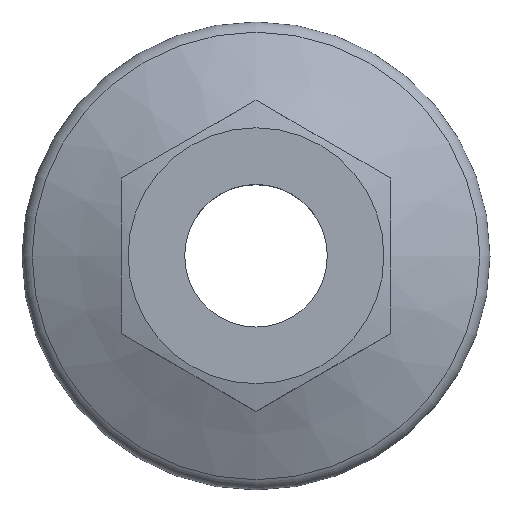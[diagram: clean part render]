
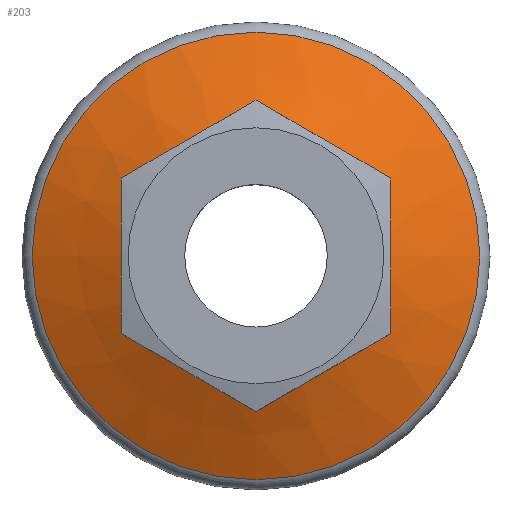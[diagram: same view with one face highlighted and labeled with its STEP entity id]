
A CAD part, top view. The second image highlights one B-rep face of the part: STEP entity #203.
In plain terms, the highlighted conical face has half-angle 65 degrees and reference radius 4.573 mm.
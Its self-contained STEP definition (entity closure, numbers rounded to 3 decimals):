
#31=FACE_OUTER_BOUND('',#43,.T.);
#43=EDGE_LOOP('',(#143,#144,#145,#146,#147,#148,#149,#150,#151,#152));
#57=(
BOUNDED_CURVE()
B_SPLINE_CURVE(2,(#312,#313,#314),.UNSPECIFIED.,.F.,.F.)
B_SPLINE_CURVE_WITH_KNOTS((3,3),(0.252,0.838),
 .UNSPECIFIED.)
CURVE()
GEOMETRIC_REPRESENTATION_ITEM()
RATIONAL_B_SPLINE_CURVE((1.235,1.426,1.235))
REPRESENTATION_ITEM('')
);
#58=(
BOUNDED_CURVE()
B_SPLINE_CURVE(2,(#316,#317,#318),.UNSPECIFIED.,.F.,.F.)
B_SPLINE_CURVE_WITH_KNOTS((3,3),(0.252,0.838),
 .UNSPECIFIED.)
CURVE()
GEOMETRIC_REPRESENTATION_ITEM()
RATIONAL_B_SPLINE_CURVE((1.235,1.426,1.235))
REPRESENTATION_ITEM('')
);
#59=(
BOUNDED_CURVE()
B_SPLINE_CURVE(2,(#320,#321,#322),.UNSPECIFIED.,.F.,.F.)
B_SPLINE_CURVE_WITH_KNOTS((3,3),(0.252,0.838),
 .UNSPECIFIED.)
CURVE()
GEOMETRIC_REPRESENTATION_ITEM()
RATIONAL_B_SPLINE_CURVE((1.235,1.426,1.235))
REPRESENTATION_ITEM('')
);
#60=(
BOUNDED_CURVE()
B_SPLINE_CURVE(2,(#324,#325,#326),.UNSPECIFIED.,.F.,.F.)
B_SPLINE_CURVE_WITH_KNOTS((3,3),(0.252,0.838),
 .UNSPECIFIED.)
CURVE()
GEOMETRIC_REPRESENTATION_ITEM()
RATIONAL_B_SPLINE_CURVE((1.235,1.426,1.235))
REPRESENTATION_ITEM('')
);
#61=(
BOUNDED_CURVE()
B_SPLINE_CURVE(2,(#328,#329,#330),.UNSPECIFIED.,.F.,.F.)
B_SPLINE_CURVE_WITH_KNOTS((3,3),(0.252,0.838),
 .UNSPECIFIED.)
CURVE()
GEOMETRIC_REPRESENTATION_ITEM()
RATIONAL_B_SPLINE_CURVE((1.235,1.426,1.235))
REPRESENTATION_ITEM('')
);
#62=(
BOUNDED_CURVE()
B_SPLINE_CURVE(2,(#331,#332,#333),.UNSPECIFIED.,.F.,.F.)
B_SPLINE_CURVE_WITH_KNOTS((3,3),(0.252,0.838),
 .UNSPECIFIED.)
CURVE()
GEOMETRIC_REPRESENTATION_ITEM()
RATIONAL_B_SPLINE_CURVE((1.235,1.426,1.235))
REPRESENTATION_ITEM('')
);
#70=LINE('',#310,#79);
#79=VECTOR('',#258,4.573);
#88=CIRCLE('',#231,6.646);
#89=CIRCLE('',#232,6.646);
#95=VERTEX_POINT('',#306);
#96=VERTEX_POINT('',#307);
#97=VERTEX_POINT('',#309);
#98=VERTEX_POINT('',#311);
#99=VERTEX_POINT('',#315);
#100=VERTEX_POINT('',#319);
#101=VERTEX_POINT('',#323);
#102=VERTEX_POINT('',#327);
#114=EDGE_CURVE('',#95,#96,#88,.T.);
#115=EDGE_CURVE('',#95,#97,#70,.T.);
#116=EDGE_CURVE('',#98,#97,#57,.T.);
#117=EDGE_CURVE('',#99,#98,#58,.T.);
#118=EDGE_CURVE('',#100,#99,#59,.T.);
#119=EDGE_CURVE('',#101,#100,#60,.T.);
#120=EDGE_CURVE('',#102,#101,#61,.T.);
#121=EDGE_CURVE('',#97,#102,#62,.T.);
#122=EDGE_CURVE('',#96,#95,#89,.T.);
#143=ORIENTED_EDGE('',*,*,#114,.F.);
#144=ORIENTED_EDGE('',*,*,#115,.T.);
#145=ORIENTED_EDGE('',*,*,#116,.F.);
#146=ORIENTED_EDGE('',*,*,#117,.F.);
#147=ORIENTED_EDGE('',*,*,#118,.F.);
#148=ORIENTED_EDGE('',*,*,#119,.F.);
#149=ORIENTED_EDGE('',*,*,#120,.F.);
#150=ORIENTED_EDGE('',*,*,#121,.F.);
#151=ORIENTED_EDGE('',*,*,#115,.F.);
#152=ORIENTED_EDGE('',*,*,#122,.F.);
#201=CONICAL_SURFACE('',#230,4.573,1.134);
#203=ADVANCED_FACE('',(#31),#201,.T.);
#230=AXIS2_PLACEMENT_3D('',#305,#254,#255);
#231=AXIS2_PLACEMENT_3D('',#308,#256,#257);
#232=AXIS2_PLACEMENT_3D('',#334,#259,#260);
#254=DIRECTION('center_axis',(0.,0.,-1.));
#255=DIRECTION('ref_axis',(0.,1.,0.));
#256=DIRECTION('center_axis',(0.,0.,-1.));
#257=DIRECTION('ref_axis',(1.,0.,0.));
#258=DIRECTION('',(0.,0.906,0.423));
#259=DIRECTION('center_axis',(0.,0.,-1.));
#260=DIRECTION('ref_axis',(1.,0.,0.));
#305=CARTESIAN_POINT('Origin',(0.,0.,1.967));
#306=CARTESIAN_POINT('',(0.,-6.646,1.));
#307=CARTESIAN_POINT('',(6.646,0.,1.));
#308=CARTESIAN_POINT('Origin',(0.,0.,1.));
#309=CARTESIAN_POINT('',(0.,-4.619,1.945));
#310=CARTESIAN_POINT('',(0.,-4.573,1.967));
#311=CARTESIAN_POINT('',(-4.,-2.309,1.945));
#312=CARTESIAN_POINT('Ctrl Pts',(-4.,-2.309,1.945));
#313=CARTESIAN_POINT('Ctrl Pts',(-2.,-3.464,2.484));
#314=CARTESIAN_POINT('Ctrl Pts',(0.,-4.619,
1.945));
#315=CARTESIAN_POINT('',(-4.,2.309,1.945));
#316=CARTESIAN_POINT('Ctrl Pts',(-4.,2.309,1.945));
#317=CARTESIAN_POINT('Ctrl Pts',(-4.,0.,2.484));
#318=CARTESIAN_POINT('Ctrl Pts',(-4.,-2.309,1.945));
#319=CARTESIAN_POINT('',(0.,4.619,1.945));
#320=CARTESIAN_POINT('Ctrl Pts',(0.,4.619,1.945));
#321=CARTESIAN_POINT('Ctrl Pts',(-2.,3.464,2.484));
#322=CARTESIAN_POINT('Ctrl Pts',(-4.,2.309,1.945));
#323=CARTESIAN_POINT('',(4.,2.309,1.945));
#324=CARTESIAN_POINT('Ctrl Pts',(4.,2.309,1.945));
#325=CARTESIAN_POINT('Ctrl Pts',(2.,3.464,2.484));
#326=CARTESIAN_POINT('Ctrl Pts',(0.,4.619,
1.945));
#327=CARTESIAN_POINT('',(4.,-2.309,1.945));
#328=CARTESIAN_POINT('Ctrl Pts',(4.,-2.309,1.945));
#329=CARTESIAN_POINT('Ctrl Pts',(4.,0.,2.484));
#330=CARTESIAN_POINT('Ctrl Pts',(4.,2.309,1.945));
#331=CARTESIAN_POINT('Ctrl Pts',(0.,-4.619,
1.945));
#332=CARTESIAN_POINT('Ctrl Pts',(2.,-3.464,2.484));
#333=CARTESIAN_POINT('Ctrl Pts',(4.,-2.309,1.945));
#334=CARTESIAN_POINT('Origin',(0.,0.,1.));
